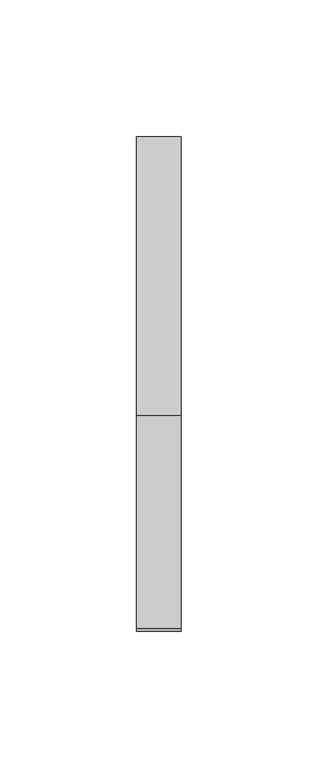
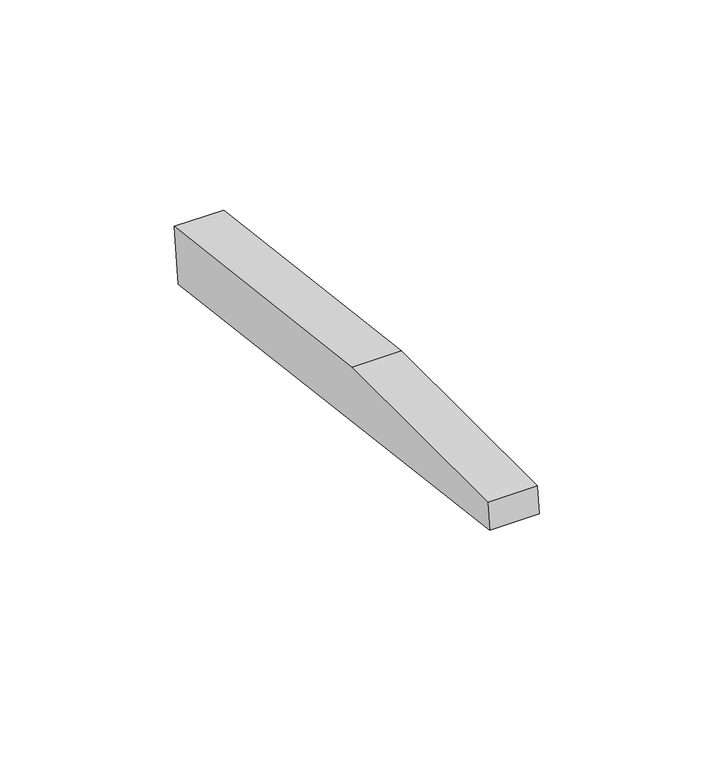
"""IFC4 building model written with IfcOpenShell, lengths in millimetres: beam geometry, weatherboad : weatherboad."""

from ifc_helpers import new_model, si_unit, frame, origin, place, context, project, spatial, polyline, outline, extrude, source, transform, mapped, element, save


def beam_b3412224(model_context):
    return source(origin(), model_context, "Body", "SweptSolid", [
        extrude(outline(polyline([(0.0, -9.143159), (1.1226388, 0.0), (79.0749747, 0.0), (180.9387048, -12.5072934), (178.6231873, -31.3656703), (0.0, -9.143159)])), frame((-8.1760222, 0.0, 0.0), z_axis=(1.0, 0.0, 0.0), x_axis=(0.0, 1.0, 0.0)), (0.0, 0.0, 1.0), 16.3520443),
    ])


if __name__ == "__main__":
    model = new_model("IFC4")
    model_context = context("Model", 3, world=origin())
    ifc_project = project(units=[si_unit("LENGTHUNIT", "METRE", prefix="MILLI")], contexts=[model_context])
    site = spatial("IfcSite", under=ifc_project)
    building = spatial("IfcBuilding", under=site)
    placement = place(None, origin())
    beam_shape = beam_b3412224(model_context)
    element("IfcBeam", 1, ObjectType="weatherboad : weatherboad", at=placement, inside=building, context=model_context, shape_type="MappedRepresentation", body=[
        mapped(beam_shape, transform((0.0, 0.0, 0.0), x_axis=(1.0, 0.0, 0.0), y_axis=(0.0, 1.0, 0.0), z_axis=(0.0, 0.0, 1.0))),
    ])
    save(model, "model.ifc")
